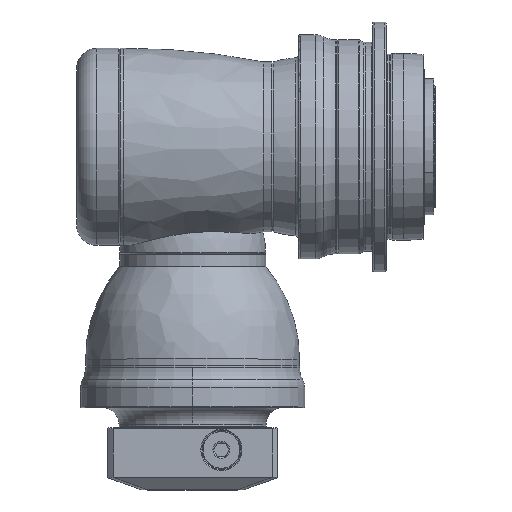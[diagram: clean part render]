
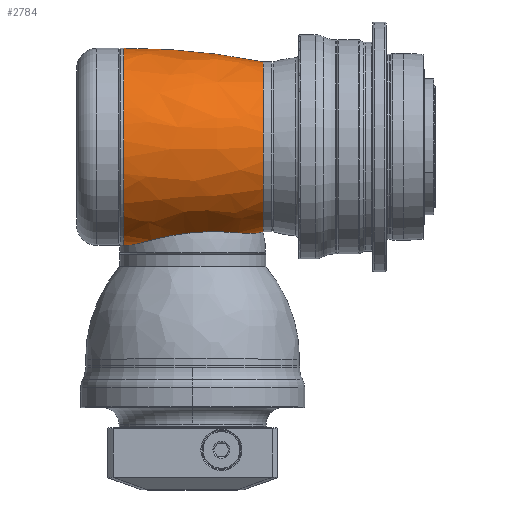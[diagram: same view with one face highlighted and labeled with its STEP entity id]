
A CAD part, top view. The second image highlights one B-rep face of the part: STEP entity #2784.
In plain terms, the highlighted free-form (B-spline) face has degree [3, 3] with [7, 4] control points.
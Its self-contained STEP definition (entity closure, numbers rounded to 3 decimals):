
#565=CARTESIAN_POINT('',(-38.133,341.993,
0.));
#566=DIRECTION('',(0.,0.,-1.));
#567=DIRECTION('',(0.199,-0.98,0.));
#568=AXIS2_PLACEMENT_3D('',#565,#566,#567);
#575=CARTESIAN_POINT('',(-38.133,-341.993,
0.));
#576=DIRECTION('',(0.,0.,1.));
#577=DIRECTION('',(0.199,0.98,0.));
#578=AXIS2_PLACEMENT_3D('',#575,#576,#577);
#631=CARTESIAN_POINT('',(-40.5,0.,0.));
#632=DIRECTION('',(1.,0.,0.));
#633=DIRECTION('',(0.,1.,0.));
#634=AXIS2_PLACEMENT_3D('',#631,#632,#633);
#646=CARTESIAN_POINT('',(37.853,-50.723,
0.));
#647=CARTESIAN_POINT('',(37.201,-50.849,1.535));
#648=CARTESIAN_POINT('',(35.679,-51.003,4.541));
#649=CARTESIAN_POINT('',(32.646,-50.982,8.913));
#650=CARTESIAN_POINT('',(28.982,-50.777,12.881));
#651=CARTESIAN_POINT('',(24.797,-50.487,16.34));
#652=CARTESIAN_POINT('',(20.137,-50.203,19.257));
#653=CARTESIAN_POINT('',(15.063,-50.016,21.589));
#654=CARTESIAN_POINT('',(9.633,-50.004,23.29));
#655=CARTESIAN_POINT('',(3.914,-50.231,24.313));
#656=CARTESIAN_POINT('',(-2.014,-50.741,24.595));
#657=CARTESIAN_POINT('',(-7.959,-51.534,24.088));
#658=CARTESIAN_POINT('',(-13.747,-52.561,22.787));
#659=CARTESIAN_POINT('',(-19.259,-53.743,20.707));
#660=CARTESIAN_POINT('',(-24.358,-54.972,17.898));
#661=CARTESIAN_POINT('',(-28.918,-56.121,14.452));
#662=CARTESIAN_POINT('',(-32.85,-57.073,10.493));
#663=CARTESIAN_POINT('',(-36.11,-57.736,6.162));
#664=CARTESIAN_POINT('',(-38.693,-58.049,1.578));
#665=CARTESIAN_POINT('',(-39.967,-58.004,
-1.557));
#666=CARTESIAN_POINT('',(-40.5,-57.915,-3.141));
#668=CARTESIAN_POINT('',(41.5,0.,0.));
#669=DIRECTION('',(1.,0.,0.));
#670=DIRECTION('',(0.,1.,0.));
#671=AXIS2_PLACEMENT_3D('',#668,#669,#670);
#1346=CARTESIAN_POINT('',(41.5,50.,0.));
#1347=CARTESIAN_POINT('',(-40.5,58.,0.));
#1348=VERTEX_POINT('',#1346);
#1349=VERTEX_POINT('',#1347);
#1350=CARTESIAN_POINT('',(41.5,-50.,0.));
#1351=VERTEX_POINT('',#1350);
#1352=CARTESIAN_POINT('',(37.853,-50.723,
0.));
#1353=VERTEX_POINT('',#1352);
#1424=VERTEX_POINT('',#666);
#2747=CARTESIAN_POINT('',(-42.151,57.868,
-3.704));
#2748=CARTESIAN_POINT('',(-13.485,58.156,
-3.722));
#2749=CARTESIAN_POINT('',(15.047,55.378,-3.544));
#2750=CARTESIAN_POINT('',(43.117,49.567,-3.172));
#2751=CARTESIAN_POINT('',(-42.151,60.198,32.694));
#2752=CARTESIAN_POINT('',(-13.485,60.497,32.856));
#2753=CARTESIAN_POINT('',(15.047,57.607,31.287));
#2754=CARTESIAN_POINT('',(43.117,51.562,28.003));
#2755=CARTESIAN_POINT('',(-42.151,34.888,58.954));
#2756=CARTESIAN_POINT('',(-13.485,35.061,59.246));
#2757=CARTESIAN_POINT('',(15.047,33.386,56.416));
#2758=CARTESIAN_POINT('',(43.117,29.883,50.496));
#2759=CARTESIAN_POINT('',(-42.151,-1.571,
57.966));
#2760=CARTESIAN_POINT('',(-13.485,-1.579,
58.253));
#2761=CARTESIAN_POINT('',(15.047,-1.503,55.471));
#2762=CARTESIAN_POINT('',(43.117,-1.346,49.65));
#2763=CARTESIAN_POINT('',(-42.151,-38.029,
56.977));
#2764=CARTESIAN_POINT('',(-13.485,-38.218,
57.26));
#2765=CARTESIAN_POINT('',(15.047,-36.393,54.525));
#2766=CARTESIAN_POINT('',(43.117,-32.574,48.804));
#2767=CARTESIAN_POINT('',(-42.151,-61.88,
29.385));
#2768=CARTESIAN_POINT('',(-13.485,-62.188,
29.531));
#2769=CARTESIAN_POINT('',(15.047,-59.217,28.121));
#2770=CARTESIAN_POINT('',(43.117,-53.003,25.17));
#2771=CARTESIAN_POINT('',(-42.151,-57.583,
-6.833));
#2772=CARTESIAN_POINT('',(-13.485,-57.869,
-6.866));
#2773=CARTESIAN_POINT('',(15.047,-55.105,
-6.538));
#2774=CARTESIAN_POINT('',(43.117,-49.322,
-5.852));
#2775=(BOUNDED_SURFACE()B_SPLINE_SURFACE(3,3,((#2747,#2748,#2749,#2750),(#2751,
#2752,#2753,#2754),(#2755,#2756,#2757,#2758),(#2759,#2760,#2761,#2762),(#2763,
#2764,#2765,#2766),(#2767,#2768,#2769,#2770),(#2771,#2772,#2773,#2774)),
.UNSPECIFIED.,.F.,.F.,.F.)B_SPLINE_SURFACE_WITH_KNOTS((4,3,4),(4,4),(0.,1.,
2.),(0.,1.),.UNSPECIFIED.)GEOMETRIC_REPRESENTATION_ITEM()RATIONAL_B_SPLINE_SURFACE(((1.198,1.193,1.193,1.198),(
0.938,0.934,0.934,0.938),(
0.938,0.934,0.934,0.938),(
1.198,1.193,1.193,1.198),(
0.938,0.934,0.934,0.938),(
0.938,0.934,0.934,0.938),(
1.198,1.193,1.193,1.198)))REPRESENTATION_ITEM('')SURFACE());
#2776=ORIENTED_EDGE('',*,*,#2691,.T.);
#2777=ORIENTED_EDGE('',*,*,#2739,.F.);
#2778=ORIENTED_EDGE('',*,*,#2673,.F.);
#2780=ORIENTED_EDGE('',*,*,#2779,.T.);
#2781=ORIENTED_EDGE('',*,*,#2669,.T.);
#2782=EDGE_LOOP('',(#2776,#2777,#2778,#2780,#2781));
#2783=FACE_OUTER_BOUND('',#2782,.F.);
#2784=ADVANCED_FACE('',(#2783),#2775,.T.);
#569=CIRCLE('',#568,400.);
#579=CIRCLE('',#578,400.);
#635=CIRCLE('',#634,58.);
#667=B_SPLINE_CURVE_WITH_KNOTS('',3,(#646,#647,#648,#649,#650,#651,#652,#653,
#654,#655,#656,#657,#658,#659,#660,#661,#662,#663,#664,#665,#666),.UNSPECIFIED.,
.F.,.F.,(4,1,1,1,1,1,1,1,1,1,1,1,1,1,1,1,1,1,4),(0.,0.056,
0.111,0.167,0.222,0.278,
0.333,0.389,0.444,0.5,0.556,
0.611,0.667,0.722,0.778,
0.833,0.889,0.944,1.),.UNSPECIFIED.);
#672=CIRCLE('',#671,50.);
#2669=EDGE_CURVE('',#1351,#1353,#569,.T.);
#2673=EDGE_CURVE('',#1348,#1349,#579,.T.);
#2691=EDGE_CURVE('',#1353,#1424,#667,.T.);
#2739=EDGE_CURVE('',#1349,#1424,#635,.T.);
#2779=EDGE_CURVE('',#1348,#1351,#672,.T.);
